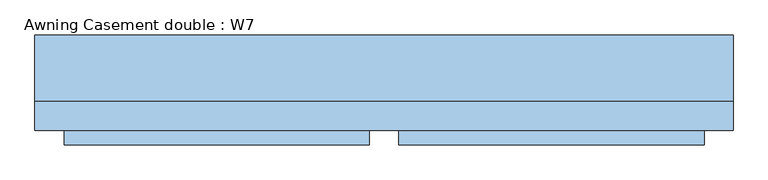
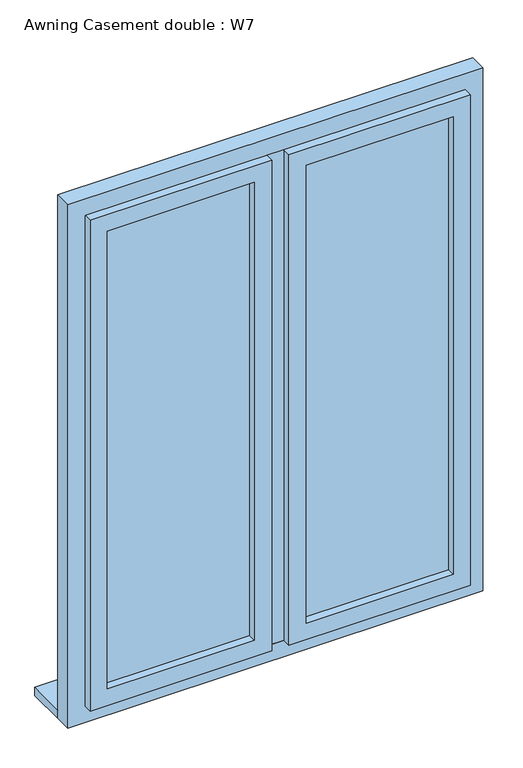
"""IFC4 building model written with IfcOpenShell, lengths in millimetres: window geometry, Awning Casement double : W7."""

from ifc_helpers import new_model, si_unit, frame, origin, place, context, project, spatial, polyline, outline, extrude, source, transform, mapped, element, save


def awning_casement_double_w7_ecde4b56(model_context):
    return source(origin(), model_context, "Body", "SweptSolid", [
        extrude(outline(polyline([(-75.0, -25.5), (-500.0, -25.5), (-500.0, -24.5), (-75.0, -24.5), (-75.0, -25.5)])), frame((0.0, 0.0, 900.0), z_axis=(0.0, 0.0, 1.0), x_axis=(1.0, 0.0, 0.0)), (0.0, 0.0, 1.0), 1400.0),
        extrude(outline(polyline([(500.0, -25.5), (75.0, -25.5), (75.0, -24.5), (500.0, -24.5), (500.0, -25.5)])), frame((0.0, 0.0, 900.0), z_axis=(0.0, 0.0, 1.0), x_axis=(1.0, 0.0, 0.0)), (0.0, 0.0, 1.0), 1400.0),
        extrude(outline(polyline([(25.0, -24.5), (-25.0, -24.5), (-25.0, 25.5), (25.0, 25.5), (25.0, -24.5)])), frame((0.0, 0.0, 850.0), z_axis=(0.0, 0.0, 1.0), x_axis=(1.0, 0.0, 0.0)), (0.0, 0.0, 1.0), 1500.0),
        extrude(outline(polyline([(2350.0, -25.0), (2350.0, -550.0), (850.0, -550.0), (850.0, -25.0), (2350.0, -25.0)]), holes=[polyline([(2300.0, -75.0), (900.0, -75.0), (900.0, -500.0), (2300.0, -500.0), (2300.0, -75.0)])]), frame((0.0, -49.5, 0.0), z_axis=(0.0, 1.0, 0.0), x_axis=(0.0, 0.0, 1.0)), (0.0, 0.0, 1.0), 49.5),
        extrude(outline(polyline([(2350.0, 550.0), (2350.0, 25.0), (850.0, 25.0), (850.0, 550.0), (2350.0, 550.0)]), holes=[polyline([(2300.0, 500.0), (900.0, 500.0), (900.0, 75.0), (2300.0, 75.0), (2300.0, 500.0)])]), frame((0.0, -49.5, 0.0), z_axis=(0.0, 1.0, 0.0), x_axis=(0.0, 0.0, 1.0)), (0.0, 0.0, 1.0), 49.5),
        extrude(outline(polyline([(2400.0, 600.0), (2400.0, -600.0), (800.0, -600.0), (800.0, 600.0), (2400.0, 600.0)]), holes=[polyline([(2350.0, 550.0), (850.0, 550.0), (850.0, -550.0), (2350.0, -550.0), (2350.0, 550.0)])]), frame((0.0, -24.5, 0.0), z_axis=(0.0, 1.0, 0.0), x_axis=(0.0, 0.0, 1.0)), (0.0, 0.0, 1.0), 50.0),
        extrude(outline(polyline([(600.0, 25.5), (-600.0, 25.5), (-600.0, 140.0), (600.0, 140.0), (600.0, 25.5)])), frame((0.0, 0.0, 800.0), z_axis=(0.0, 0.0, 1.0), x_axis=(1.0, 0.0, 0.0)), (0.0, 0.0, 1.0), 25.0),
    ])


if __name__ == "__main__":
    model = new_model("IFC4")
    model_context = context("Model", 3, world=origin())
    ifc_project = project(units=[si_unit("LENGTHUNIT", "METRE", prefix="MILLI")], contexts=[model_context])
    site = spatial("IfcSite", under=ifc_project)
    building = spatial("IfcBuilding", under=site)
    placement = place(None, origin())
    awning_casement_double_w7_shape = awning_casement_double_w7_ecde4b56(model_context)
    element("IfcWindow", 1, ObjectType="Awning Casement double : W7", at=placement, inside=building, context=model_context, shape_type="MappedRepresentation", body=[
        mapped(awning_casement_double_w7_shape, transform((0.0, 0.0, 0.0), x_axis=(1.0, 0.0, 0.0), y_axis=(0.0, 1.0, 0.0), z_axis=(0.0, 0.0, 1.0))),
    ])
    save(model, "model.ifc")
